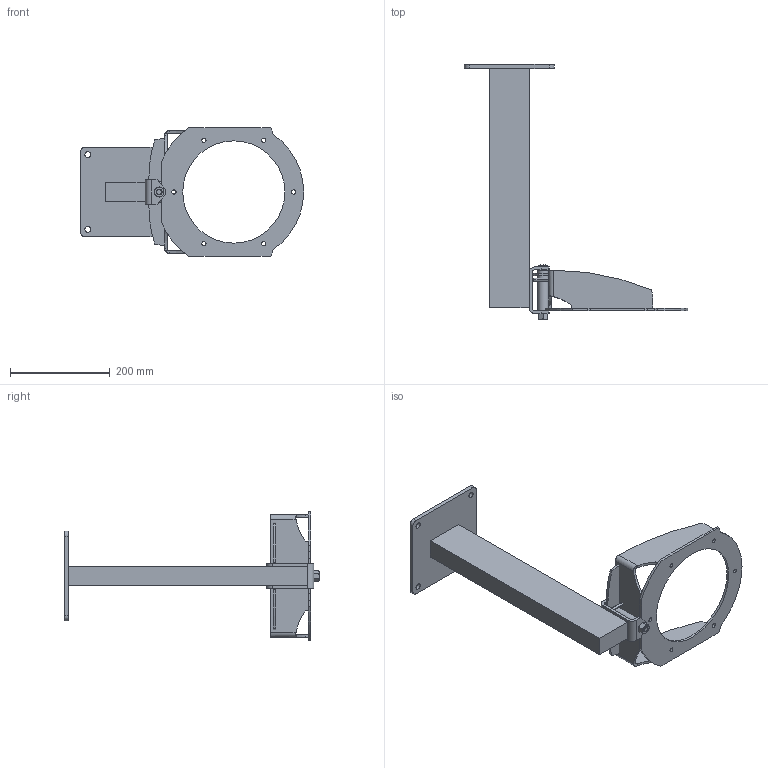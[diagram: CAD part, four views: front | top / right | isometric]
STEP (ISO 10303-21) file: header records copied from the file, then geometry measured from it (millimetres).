
FILE_DESCRIPTION((''),'2;1');
FILE_NAME('139678','2019-08-23T09:48:24',('Tomas Bellgran'),(''),'CREO PARAMETRIC BY PTC INC, 2018260','CREO PARAMETRIC BY PTC INC, 2018260','');
FILE_SCHEMA(('AUTOMOTIVE_DESIGN { 1 0 10303 214 1 1 1 1 }'));
Length unit declared in the file: millimetre
Products named in the file (13): 100-6315-1; 143251; 100-6300-03; 137386; 137238; 137240; 100-6305-2; 137245; 138518; 137199; 100-6306; 9908480; 139678
Assembly tree (13 placements, depth 3):
  139678
    137386
      100-6315-1
      143251
      100-6300-03
    137199
      137238
      137240
      100-6305-2
      137245
      138518  x2
    100-6306
    9908480
Bounding box: 447.75 x 511.5 x 258 mm (x, y, z)
Volume: 2259989.6 mm3; surface area: 401358.5 mm2
Topology: 11 solids, 15 shells, 222 faces, 546 edges, 349 vertices
Faces by surface type: plane 107, cylinder 81, cone 26, bspline 4, torus 2, sphere 2
Entity records: 13931 total; most frequent: CARTESIAN_POINT 3188, DIRECTION 1323, ORIENTED_EDGE 1008, PROPERTY_DEFINITION 745, REPRESENTATION 730, PROPERTY_DEFINITION_REPRESENTATION 730, DESCRIPTIVE_REPRESENTATION_ITEM 571, GENERAL_PROPERTY 553
